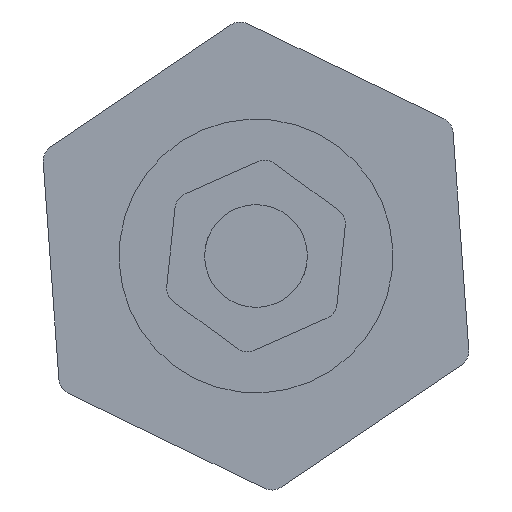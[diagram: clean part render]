
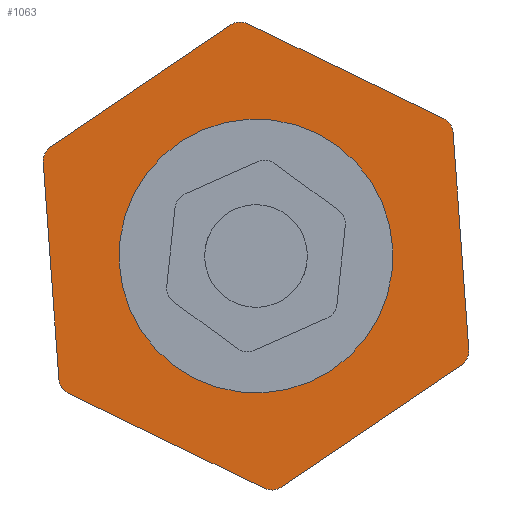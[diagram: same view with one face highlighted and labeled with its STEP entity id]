
A CAD part, front view. The second image highlights one B-rep face of the part: STEP entity #1063.
In plain terms, the highlighted planar face has unit normal (0, -1, 0) as drawn and (0, 0, 1) by its records, which use the part's own axes.
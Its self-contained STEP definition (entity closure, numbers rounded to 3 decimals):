
#14 = CARTESIAN_POINT ( 'NONE',  ( 0., 0., 6. ) ) ;
#19 = DIRECTION ( 'NONE',  ( 1., 0., 0. ) ) ;
#34 = EDGE_CURVE ( 'NONE', #431, #2856, #3433, .T. ) ;
#41 = DIRECTION ( 'NONE',  ( 0., 0., 1. ) ) ;
#42 = ORIENTED_EDGE ( 'NONE', *, *, #265, .T. ) ;
#48 = VERTEX_POINT ( 'NONE', #2033 ) ;
#93 = DIRECTION ( 'NONE',  ( 1., 0., 0. ) ) ;
#135 = CARTESIAN_POINT ( 'NONE',  ( 7.05, 11.603, 6. ) ) ;
#153 = EDGE_CURVE ( 'NONE', #399, #249, #1498, .T. ) ;
#249 = VERTEX_POINT ( 'NONE', #980 ) ;
#265 = EDGE_CURVE ( 'NONE', #3418, #1674, #3210, .T. ) ;
#351 = LINE ( 'NONE', #1675, #972 ) ;
#368 = EDGE_CURVE ( 'NONE', #2207, #833, #486, .T. ) ;
#386 = EDGE_CURVE ( 'NONE', #1525, #399, #2501, .T. ) ;
#392 = AXIS2_PLACEMENT_3D ( 'NONE', #1885, #1556, #514 ) ;
#399 = VERTEX_POINT ( 'NONE', #831 ) ;
#431 = VERTEX_POINT ( 'NONE', #1104 ) ;
#452 = FACE_OUTER_BOUND ( 'NONE', #2617, .T. ) ;
#486 = LINE ( 'NONE', #1580, #522 ) ;
#514 = DIRECTION ( 'NONE',  ( 1., 0., 0. ) ) ;
#522 = VECTOR ( 'NONE', #2682, 1000. ) ;
#543 = ORIENTED_EDGE ( 'NONE', *, *, #974, .T. ) ;
#549 = ORIENTED_EDGE ( 'NONE', *, *, #1806, .T. ) ;
#566 = AXIS2_PLACEMENT_3D ( 'NONE', #2507, #41, #1127 ) ;
#573 = CARTESIAN_POINT ( 'NONE',  ( -6.177, -12.09, 6. ) ) ;
#609 = CARTESIAN_POINT ( 'NONE',  ( 13.574, -0.304, 6. ) ) ;
#627 = ORIENTED_EDGE ( 'NONE', *, *, #153, .T. ) ;
#650 = CARTESIAN_POINT ( 'NONE',  ( -6.192, -11.09, 6. ) ) ;
#654 = CARTESIAN_POINT ( 'NONE',  ( 0., 0., 6. ) ) ;
#660 = CARTESIAN_POINT ( 'NONE',  ( -6.509, 10.907, 6. ) ) ;
#667 = DIRECTION ( 'NONE',  ( 0., 0., 1. ) ) ;
#671 = VECTOR ( 'NONE', #1632, 1000. ) ;
#715 = CARTESIAN_POINT ( 'NONE',  ( 6.192, 11.09, 6. ) ) ;
#783 = AXIS2_PLACEMENT_3D ( 'NONE', #715, #2423, #2122 ) ;
#831 = CARTESIAN_POINT ( 'NONE',  ( -6.523, 11.907, 6. ) ) ;
#833 = VERTEX_POINT ( 'NONE', #135 ) ;
#852 = CIRCLE ( 'NONE', #2872, 1. ) ;
#865 = VECTOR ( 'NONE', #2725, 1000. ) ;
#972 = VECTOR ( 'NONE', #2556, 1000. ) ;
#974 = EDGE_CURVE ( 'NONE', #833, #1525, #1776, .T. ) ;
#980 = CARTESIAN_POINT ( 'NONE',  ( -7.382, 11.395, 6. ) ) ;
#989 = CARTESIAN_POINT ( 'NONE',  ( -7., 0., 6. ) ) ;
#995 = DIRECTION ( 'NONE',  ( 0.512, -0.859, 0. ) ) ;
#1040 = ORIENTED_EDGE ( 'NONE', *, *, #3246, .T. ) ;
#1063 = ADVANCED_FACE ( 'NONE', ( #452, #1281 ), #3271, .T. ) ;
#1098 = DIRECTION ( 'NONE',  ( 1., 0., 0. ) ) ;
#1102 = EDGE_LOOP ( 'NONE', ( #3505, #2078 ) ) ;
#1104 = CARTESIAN_POINT ( 'NONE',  ( 7.382, -11.395, 6. ) ) ;
#1127 = DIRECTION ( 'NONE',  ( 1., 0., 0. ) ) ;
#1138 = LINE ( 'NONE', #1645, #671 ) ;
#1163 = VERTEX_POINT ( 'NONE', #573 ) ;
#1257 = EDGE_CURVE ( 'NONE', #2856, #2207, #3331, .T. ) ;
#1281 = FACE_BOUND ( 'NONE', #1102, .T. ) ;
#1307 = CARTESIAN_POINT ( 'NONE',  ( -13.855, -0.2, 6. ) ) ;
#1353 = EDGE_CURVE ( 'NONE', #1743, #3418, #3391, .T. ) ;
#1357 = DIRECTION ( 'NONE',  ( 0., 0., 1. ) ) ;
#1449 = DIRECTION ( 'NONE',  ( 1., 0., 0. ) ) ;
#1498 = CIRCLE ( 'NONE', #1555, 1. ) ;
#1525 = VERTEX_POINT ( 'NONE', #2806 ) ;
#1544 = CARTESIAN_POINT ( 'NONE',  ( 0., 0., 6. ) ) ;
#1555 = AXIS2_PLACEMENT_3D ( 'NONE', #660, #2254, #93 ) ;
#1556 = DIRECTION ( 'NONE',  ( 0., 0., 1. ) ) ;
#1580 = CARTESIAN_POINT ( 'NONE',  ( 13.855, 0.2, 6. ) ) ;
#1632 = DIRECTION ( 'NONE',  ( 1., 0.014, 0. ) ) ;
#1645 = CARTESIAN_POINT ( 'NONE',  ( -6.754, -12.099, 6. ) ) ;
#1647 = CARTESIAN_POINT ( 'NONE',  ( 12.7, 0.183, 6. ) ) ;
#1674 = VERTEX_POINT ( 'NONE', #2552 ) ;
#1675 = CARTESIAN_POINT ( 'NONE',  ( -7.101, 11.899, 6. ) ) ;
#1690 = ORIENTED_EDGE ( 'NONE', *, *, #368, .T. ) ;
#1728 = CARTESIAN_POINT ( 'NONE',  ( 7.101, -11.899, 6. ) ) ;
#1731 = VECTOR ( 'NONE', #995, 1000. ) ;
#1743 = VERTEX_POINT ( 'NONE', #3250 ) ;
#1776 = CIRCLE ( 'NONE', #783, 1. ) ;
#1806 = EDGE_CURVE ( 'NONE', #1163, #2572, #1138, .T. ) ;
#1831 = AXIS2_PLACEMENT_3D ( 'NONE', #1647, #1357, #19 ) ;
#1885 = CARTESIAN_POINT ( 'NONE',  ( 6.509, -10.907, 6. ) ) ;
#1958 = EDGE_CURVE ( 'NONE', #48, #2121, #2571, .T. ) ;
#1980 = DIRECTION ( 'NONE',  ( 0.487, 0.873, 0. ) ) ;
#1984 = ORIENTED_EDGE ( 'NONE', *, *, #34, .T. ) ;
#2033 = CARTESIAN_POINT ( 'NONE',  ( 7., 0., 6. ) ) ;
#2061 = AXIS2_PLACEMENT_3D ( 'NONE', #654, #667, #2297 ) ;
#2078 = ORIENTED_EDGE ( 'NONE', *, *, #1958, .F. ) ;
#2083 = CARTESIAN_POINT ( 'NONE',  ( -13.559, -0.696, 6. ) ) ;
#2106 = ORIENTED_EDGE ( 'NONE', *, *, #2704, .T. ) ;
#2113 = CIRCLE ( 'NONE', #392, 1. ) ;
#2115 = AXIS2_PLACEMENT_3D ( 'NONE', #14, #3036, #1098 ) ;
#2121 = VERTEX_POINT ( 'NONE', #989 ) ;
#2122 = DIRECTION ( 'NONE',  ( 1., 0., 0. ) ) ;
#2144 = EDGE_CURVE ( 'NONE', #2572, #431, #2113, .T. ) ;
#2153 = CARTESIAN_POINT ( 'NONE',  ( 6.754, 12.099, 6. ) ) ;
#2207 = VERTEX_POINT ( 'NONE', #3282 ) ;
#2254 = DIRECTION ( 'NONE',  ( 0., 0., 1. ) ) ;
#2297 = DIRECTION ( 'NONE',  ( 1., 0., 0. ) ) ;
#2298 = CIRCLE ( 'NONE', #566, 1. ) ;
#2304 = EDGE_CURVE ( 'NONE', #2121, #48, #2936, .T. ) ;
#2322 = ORIENTED_EDGE ( 'NONE', *, *, #1353, .T. ) ;
#2329 = ORIENTED_EDGE ( 'NONE', *, *, #1257, .T. ) ;
#2351 = EDGE_CURVE ( 'NONE', #1674, #1163, #852, .T. ) ;
#2386 = CARTESIAN_POINT ( 'NONE',  ( 6.523, -11.907, 6. ) ) ;
#2387 = DIRECTION ( 'NONE',  ( 1., 0., 0. ) ) ;
#2423 = DIRECTION ( 'NONE',  ( 0., 0., 1. ) ) ;
#2478 = ORIENTED_EDGE ( 'NONE', *, *, #386, .T. ) ;
#2493 = CARTESIAN_POINT ( 'NONE',  ( -13.574, 0.304, 6. ) ) ;
#2501 = LINE ( 'NONE', #2153, #865 ) ;
#2507 = CARTESIAN_POINT ( 'NONE',  ( -12.7, -0.183, 6. ) ) ;
#2552 = CARTESIAN_POINT ( 'NONE',  ( -7.05, -11.603, 6. ) ) ;
#2556 = DIRECTION ( 'NONE',  ( -0.487, -0.873, 0. ) ) ;
#2571 = CIRCLE ( 'NONE', #2061, 7. ) ;
#2572 = VERTEX_POINT ( 'NONE', #2386 ) ;
#2617 = EDGE_LOOP ( 'NONE', ( #1984, #2329, #1690, #543, #2478, #627, #1040, #2106, #2322, #42, #2712, #549, #2817 ) ) ;
#2682 = DIRECTION ( 'NONE',  ( -0.512, 0.859, 0. ) ) ;
#2688 = DIRECTION ( 'NONE',  ( 1., 0., 0. ) ) ;
#2704 = EDGE_CURVE ( 'NONE', #2736, #1743, #2298, .T. ) ;
#2712 = ORIENTED_EDGE ( 'NONE', *, *, #2351, .T. ) ;
#2725 = DIRECTION ( 'NONE',  ( -1., -0.014, 0. ) ) ;
#2736 = VERTEX_POINT ( 'NONE', #2493 ) ;
#2806 = CARTESIAN_POINT ( 'NONE',  ( 6.177, 12.09, 6. ) ) ;
#2817 = ORIENTED_EDGE ( 'NONE', *, *, #2144, .T. ) ;
#2856 = VERTEX_POINT ( 'NONE', #609 ) ;
#2872 = AXIS2_PLACEMENT_3D ( 'NONE', #650, #3368, #1449 ) ;
#2936 = CIRCLE ( 'NONE', #2115, 7. ) ;
#2953 = CARTESIAN_POINT ( 'NONE',  ( -12.7, -0.183, 6. ) ) ;
#2993 = AXIS2_PLACEMENT_3D ( 'NONE', #1544, #3002, #2688 ) ;
#3002 = DIRECTION ( 'NONE',  ( 0., 0., 1. ) ) ;
#3036 = DIRECTION ( 'NONE',  ( 0., 0., 1. ) ) ;
#3037 = AXIS2_PLACEMENT_3D ( 'NONE', #2953, #3550, #2387 ) ;
#3179 = VECTOR ( 'NONE', #1980, 1000. ) ;
#3210 = LINE ( 'NONE', #1307, #1731 ) ;
#3246 = EDGE_CURVE ( 'NONE', #249, #2736, #351, .T. ) ;
#3250 = CARTESIAN_POINT ( 'NONE',  ( -13.7, -0.183, 6. ) ) ;
#3271 = PLANE ( 'NONE',  #2993 ) ;
#3282 = CARTESIAN_POINT ( 'NONE',  ( 13.559, 0.696, 6. ) ) ;
#3331 = CIRCLE ( 'NONE', #1831, 1. ) ;
#3368 = DIRECTION ( 'NONE',  ( 0., 0., 1. ) ) ;
#3391 = CIRCLE ( 'NONE', #3037, 1. ) ;
#3418 = VERTEX_POINT ( 'NONE', #2083 ) ;
#3433 = LINE ( 'NONE', #1728, #3179 ) ;
#3505 = ORIENTED_EDGE ( 'NONE', *, *, #2304, .F. ) ;
#3550 = DIRECTION ( 'NONE',  ( 0., 0., 1. ) ) ;
